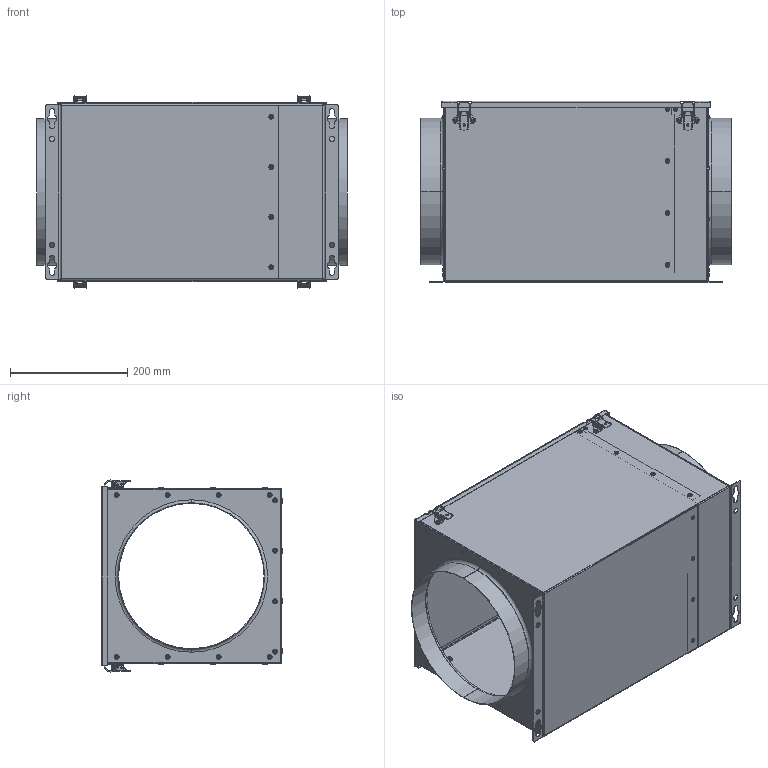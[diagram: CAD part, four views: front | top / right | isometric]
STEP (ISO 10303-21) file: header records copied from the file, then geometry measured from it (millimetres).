
FILE_DESCRIPTION (( 'STEP AP203' ), '1' );
FILE_NAME ('112845-01_FT250_step.step', '2020-08-26T08:37:50', ( '' ), ( '' ), 'SwSTEP 2.0', 'SolidWorks 2017', '' );
FILE_SCHEMA (( 'CONFIG_CONTROL_DESIGN' ));
Length unit declared in the file: millimetre
Products named in the file (1): 112845-01_FT250_step
Bounding box: 530 x 309.3 x 327.58 mm (x, y, z)
Surface area: 1458811.1 mm2 (no closed solid volume)
Topology: 0 solids, 116 shells, 930 faces, 2788 edges, 1865 vertices
Faces by surface type: cylinder 438, plane 224, torus 176, bspline 92
Entity records: 33595 total; most frequent: CARTESIAN_POINT 7860, DIRECTION 6027, ORIENTED_EDGE 4528, EDGE_CURVE 2788, AXIS2_PLACEMENT_3D 2472, VERTEX_POINT 1865, CIRCLE 1633, EDGE_LOOP 1112
